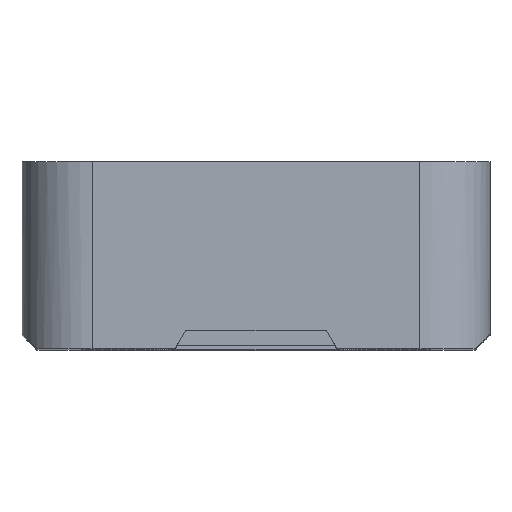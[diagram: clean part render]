
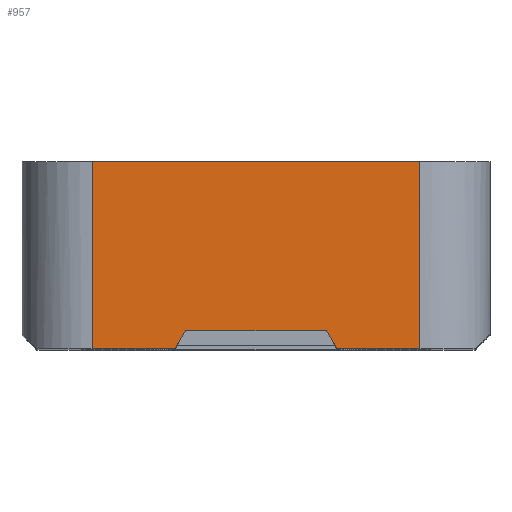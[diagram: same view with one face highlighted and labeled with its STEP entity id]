
A CAD part, top view. The second image highlights one B-rep face of the part: STEP entity #957.
In plain terms, the highlighted planar face has unit normal (0, 0, 1).
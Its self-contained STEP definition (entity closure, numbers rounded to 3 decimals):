
#52=PLANE('',#1065);
#244=ORIENTED_EDGE('',*,*,#441,.F.);
#245=ORIENTED_EDGE('',*,*,#442,.T.);
#246=ORIENTED_EDGE('',*,*,#443,.F.);
#247=ORIENTED_EDGE('',*,*,#444,.F.);
#248=ORIENTED_EDGE('',*,*,#439,.T.);
#249=ORIENTED_EDGE('',*,*,#445,.T.);
#250=ORIENTED_EDGE('',*,*,#446,.F.);
#251=ORIENTED_EDGE('',*,*,#447,.F.);
#439=EDGE_CURVE('',#551,#550,#635,.T.);
#441=EDGE_CURVE('',#552,#553,#636,.T.);
#442=EDGE_CURVE('',#552,#554,#637,.T.);
#443=EDGE_CURVE('',#555,#554,#638,.T.);
#444=EDGE_CURVE('',#551,#555,#639,.T.);
#445=EDGE_CURVE('',#550,#556,#640,.T.);
#446=EDGE_CURVE('',#557,#556,#641,.T.);
#447=EDGE_CURVE('',#553,#557,#642,.T.);
#550=VERTEX_POINT('',#1548);
#551=VERTEX_POINT('',#1550);
#552=VERTEX_POINT('',#1554);
#553=VERTEX_POINT('',#1555);
#554=VERTEX_POINT('',#1557);
#555=VERTEX_POINT('',#1559);
#556=VERTEX_POINT('',#1562);
#557=VERTEX_POINT('',#1564);
#635=LINE('',#1549,#719);
#636=LINE('',#1553,#720);
#637=LINE('',#1556,#721);
#638=LINE('',#1558,#722);
#639=LINE('',#1560,#723);
#640=LINE('',#1561,#724);
#641=LINE('',#1563,#725);
#642=LINE('',#1565,#726);
#719=VECTOR('',#1265,1000.);
#720=VECTOR('',#1270,1000.);
#721=VECTOR('',#1271,1000.);
#722=VECTOR('',#1272,1000.);
#723=VECTOR('',#1273,1000.);
#724=VECTOR('',#1274,1000.);
#725=VECTOR('',#1275,1000.);
#726=VECTOR('',#1276,1000.);
#799=EDGE_LOOP('',(#244,#245,#246,#247,#248,#249,#250,#251));
#873=FACE_BOUND('',#799,.T.);
#957=ADVANCED_FACE('',(#873),#52,.F.);
#1065=AXIS2_PLACEMENT_3D('',#1552,#1268,#1269);
#1265=DIRECTION('',(0.,-1.,0.));
#1268=DIRECTION('',(0.,0.,-1.));
#1269=DIRECTION('',(-1.,0.,0.));
#1270=DIRECTION('',(-0.5,0.866,0.));
#1271=DIRECTION('',(1.,0.,0.));
#1272=DIRECTION('',(0.,-1.,0.));
#1273=DIRECTION('',(1.,0.,0.));
#1274=DIRECTION('',(1.,0.,0.));
#1275=DIRECTION('',(-0.5,-0.866,0.));
#1276=DIRECTION('',(-1.,0.,0.));
#1548=CARTESIAN_POINT('',(-11.125,0.,11.811));
#1549=CARTESIAN_POINT('',(-11.125,12.7,11.811));
#1550=CARTESIAN_POINT('',(-11.125,12.7,11.811));
#1552=CARTESIAN_POINT('',(-11.125,12.7,11.811));
#1553=CARTESIAN_POINT('',(5.496,0.,11.811));
#1554=CARTESIAN_POINT('',(5.496,0.,11.811));
#1555=CARTESIAN_POINT('',(4.763,1.27,11.811));
#1556=CARTESIAN_POINT('',(-11.125,0.,11.811));
#1557=CARTESIAN_POINT('',(11.125,0.,11.811));
#1558=CARTESIAN_POINT('',(11.125,12.7,11.811));
#1559=CARTESIAN_POINT('',(11.125,12.7,11.811));
#1560=CARTESIAN_POINT('',(-11.125,12.7,11.811));
#1561=CARTESIAN_POINT('',(-11.125,0.,11.811));
#1562=CARTESIAN_POINT('',(-5.496,0.,11.811));
#1563=CARTESIAN_POINT('',(-4.763,1.27,11.811));
#1564=CARTESIAN_POINT('',(-4.763,1.27,11.811));
#1565=CARTESIAN_POINT('',(4.763,1.27,11.811));
